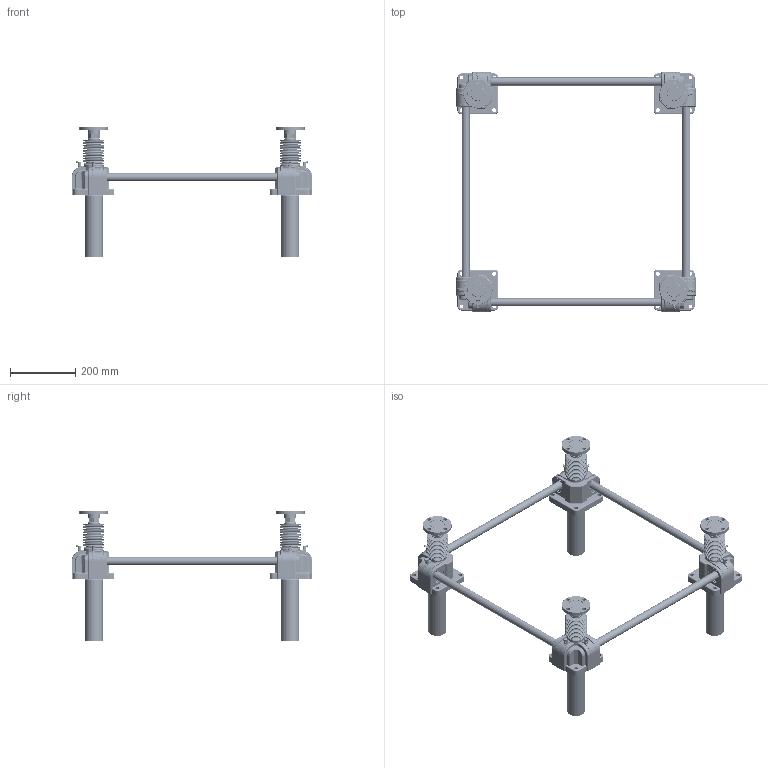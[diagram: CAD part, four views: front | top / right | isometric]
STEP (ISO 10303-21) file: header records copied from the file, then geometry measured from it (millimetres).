
FILE_DESCRIPTION(('STEP AP203'),'1');
FILE_NAME('SP1500FCJ-600x600-150ST_CAP.stp','2016-08-09T08:54:00',(' '),(' '),'Spatial InterOp 3D',' ',' ');
FILE_SCHEMA(('CONFIG_CONTROL_DESIGN'));
Length unit declared in the file: millimetre
Products named in the file (89): SP1500FCJ-600x600-150ST_CAP; Rack Gear(SP-1500FC); Flange.1-Part; Flange.1; Joint.1; Nut.1; Flange.2-Part; Flange.2; Joint.2; Nut.2; Flange.3-Part; Flange.3; Joint.3; Nut.3; Flange.4-Part; Flange.4; Joint.4; Nut.4; Bellow(SP-1500); Body.1-Part; Nipple; b6205zz; SnapRing-55Pie; Gear Box.1(NSP-1500); RJ05-4SCJ-610X600-100ST_CAP; LABEL-B.1; ___; 파트18; __ ; Body.2-Part; Gear Box.2(NSP-1500); Body.3-Part; Gear Box.3(NSP-1500); Body.4-Part; Gear Box.4(NSP-1500); Cap.1-Part; Cap.1; Snap Ring.1; Cap.2-Part; Cap.2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
Assembly tree (96 placements, depth 6):
  SP1500FCJ-600x600-150ST_CAP
    Rack Gear(SP-1500FC)  x4
    Flange.1-Part
      Flange.1
      Joint.1
      Nut.1
    Flange.2-Part
      Flange.2
      Joint.2
      Nut.2
    Flange.3-Part
      Flange.3
      Joint.3
      Nut.3
    Flange.4-Part
      Flange.4
      Joint.4
      Nut.4
    Bellow(SP-1500)  x4
    Body.1-Part
      Nipple
      Nipple
      b6205zz
      b6205zz
      SnapRing-55Pie
      SnapRing-55Pie
      Gear Box.1(NSP-1500)
      __ 
        ___
          RJ05-4SCJ-610X600-100ST_CAP
            LABEL-B.1
          파트18
    Body.2-Part
      Nipple
      Nipple
      b6205zz
      b6205zz
      SnapRing-55Pie
      SnapRing-55Pie
      Gear Box.2(NSP-1500)
      __ 
        ___
          RJ05-4SCJ-610X600-100ST_CAP
            LABEL-B.1
          파트18
    Body.3-Part
      Nipple
      Nipple
      b6205zz
      b6205zz
      SnapRing-55Pie
      SnapRing-55Pie
      Gear Box.3(NSP-1500)
      __ 
        ___
          RJ05-4SCJ-610X600-100ST_CAP
            LABEL-B.1
          파트18
    Body.4-Part
      Nipple
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Bounding box: 735.28 x 735.28 x 400 mm (x, y, z)
Volume: 5476446.4 mm3; surface area: 1922384.6 mm2
Topology: 120 solids, 120 shells, 13032 faces, 35570 edges, 23054 vertices
Faces by surface type: plane 9588, cylinder 1976, torus 552, cone 284, bspline 224, revolution 168, extrusion 152, sphere 88
Full cylindrical faces by diameter (mm): 2.975 x8, 3.087 x16, 4.8 x8, 8 x8, 9.886 x8, 10 x8, 12 x32, 25 x28, 27 x4, 28 x8, 32.5 x16, 35 x64, 36 x4, 37 x4, 38 x4, 39 x12, 39.4 x4, 41 x8, 44 x4, 45 x4, 46.1 x16, 47 x4, 48 x4, 49 x4, 50 x28, 52 x24, 53 x4, 55 x12, 59 x4, 88 x4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
Entity records: 378390 total; most frequent: CARTESIAN_POINT 93948, ORIENTED_EDGE 60100, DIRECTION 53120, EDGE_CURVE 30050, VECTOR 25376, LINE 25224, VERTEX_POINT 19874, AXIS2_PLACEMENT_3D 13788
